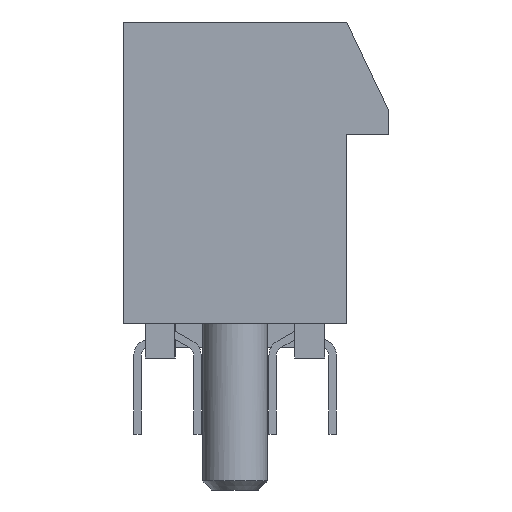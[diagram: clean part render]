
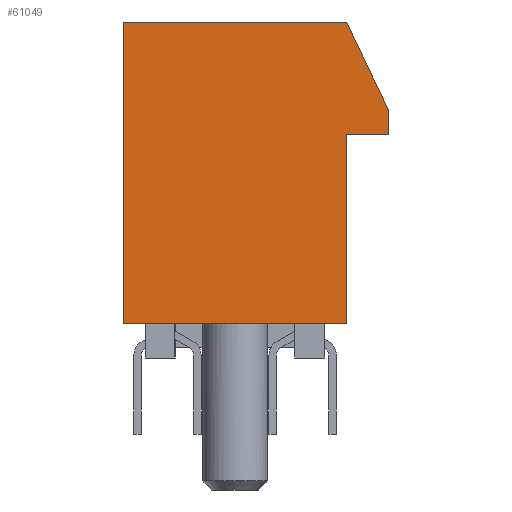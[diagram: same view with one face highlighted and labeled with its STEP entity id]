
A CAD part, left-side view. The second image highlights one B-rep face of the part: STEP entity #61049.
In plain terms, the highlighted planar face has unit normal (-1, 0, 0).
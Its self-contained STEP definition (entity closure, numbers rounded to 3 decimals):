
#34=DIRECTION('',(0.,-1.,0.));
#35=VECTOR('',#34,7.45);
#36=CARTESIAN_POINT('',(-54.23,19.28,10.06));
#37=LINE('',#36,#35);
#278=DIRECTION('',(0.,0.,-1.));
#279=VECTOR('',#278,6.31);
#280=CARTESIAN_POINT('',(-54.23,11.83,6.31));
#281=LINE('',#280,#279);
#346=DIRECTION('',(0.,1.,0.));
#347=VECTOR('',#346,7.45);
#348=CARTESIAN_POINT('',(-54.23,11.83,0.));
#349=LINE('',#348,#347);
#1029=DIRECTION('',(0.,0.429,0.903));
#1030=VECTOR('',#1029,3.265);
#1031=CARTESIAN_POINT('',(-54.23,10.43,7.11));
#1032=LINE('',#1031,#1030);
#1033=DIRECTION('',(0.,0.,1.));
#1034=VECTOR('',#1033,0.8);
#1035=CARTESIAN_POINT('',(-54.23,10.43,6.31));
#1036=LINE('',#1035,#1034);
#1037=DIRECTION('',(0.,-1.,0.));
#1038=VECTOR('',#1037,1.4);
#1039=CARTESIAN_POINT('',(-54.23,11.83,6.31));
#1040=LINE('',#1039,#1038);
#1041=DIRECTION('',(0.,0.,-1.));
#1042=VECTOR('',#1041,10.06);
#1043=CARTESIAN_POINT('',(-54.23,19.28,10.06));
#1044=LINE('',#1043,#1042);
#46456=CARTESIAN_POINT('',(-54.23,10.43,7.11));
#46457=CARTESIAN_POINT('',(-54.23,11.83,10.06));
#46458=VERTEX_POINT('',#46456);
#46459=VERTEX_POINT('',#46457);
#46460=CARTESIAN_POINT('',(-54.23,10.43,6.31));
#46461=VERTEX_POINT('',#46460);
#46462=CARTESIAN_POINT('',(-54.23,11.83,6.31));
#46463=VERTEX_POINT('',#46462);
#46464=CARTESIAN_POINT('',(-54.23,11.83,0.));
#46465=VERTEX_POINT('',#46464);
#46466=CARTESIAN_POINT('',(-54.23,19.28,0.));
#46467=VERTEX_POINT('',#46466);
#46468=CARTESIAN_POINT('',(-54.23,19.28,10.06));
#46469=VERTEX_POINT('',#46468);
#61032=CARTESIAN_POINT('',(-54.23,13.043,5.772));
#61033=DIRECTION('',(1.,0.,0.));
#61034=DIRECTION('',(0.,-1.,0.));
#61035=AXIS2_PLACEMENT_3D('',#61032,#61033,#61034);
#61036=PLANE('',#61035);
#61037=ORIENTED_EDGE('',*,*,#59871,.T.);
#61039=ORIENTED_EDGE('',*,*,#61038,.F.);
#61041=ORIENTED_EDGE('',*,*,#61040,.F.);
#61043=ORIENTED_EDGE('',*,*,#61042,.F.);
#61044=ORIENTED_EDGE('',*,*,#60296,.T.);
#61045=ORIENTED_EDGE('',*,*,#60383,.T.);
#61046=ORIENTED_EDGE('',*,*,#60972,.F.);
#61047=EDGE_LOOP('',(#61037,#61039,#61041,#61043,#61044,#61045,#61046));
#61048=FACE_OUTER_BOUND('',#61047,.F.);
#61049=ADVANCED_FACE('',(#61048),#61036,.F.);
#59871=EDGE_CURVE('',#46469,#46459,#37,.T.);
#60296=EDGE_CURVE('',#46463,#46465,#281,.T.);
#60383=EDGE_CURVE('',#46465,#46467,#349,.T.);
#60972=EDGE_CURVE('',#46469,#46467,#1044,.T.);
#61038=EDGE_CURVE('',#46458,#46459,#1032,.T.);
#61040=EDGE_CURVE('',#46461,#46458,#1036,.T.);
#61042=EDGE_CURVE('',#46463,#46461,#1040,.T.);
